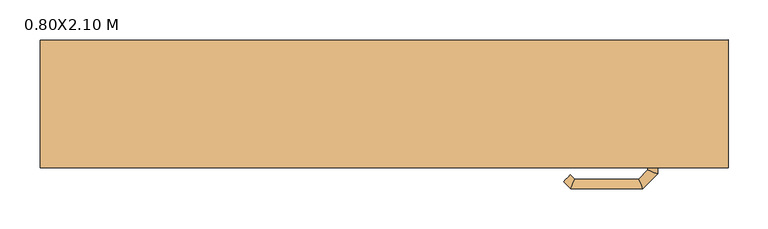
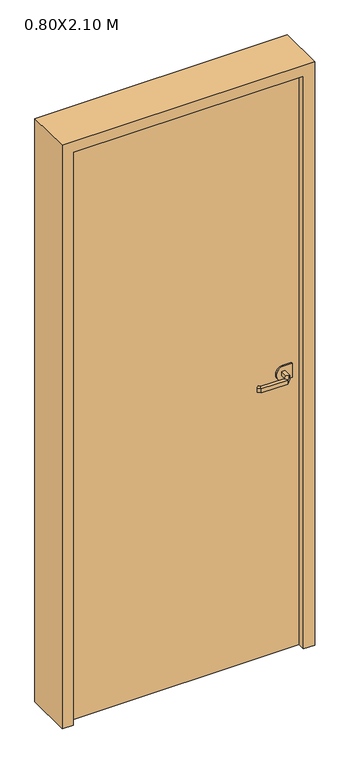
"""IFC4 building model written with IfcOpenShell, lengths in millimetres: door geometry, PUERTA DE  MADERA-CEDRO : 0.80X2.10 M."""

from ifc_helpers import new_model, si_unit, point, frame, frame_2d, origin, origin_with_axes, place, context, project, spatial, polyline, circle_curve, ellipse_curve, trimmed, segment, composite_curve, outline, extrude, faceted_brep, source, transform, mapped, element, save
from ifc_brep_helpers import plane_surface, cylinder_surface, advanced_brep


def door_0_80x2_10_m_f795b408(model_context):
    return source(origin(), model_context, "Body", "SolidModel", [
        extrude(outline(composite_curve([segment(polyline([(975.0, 365.9), (1025.0, 365.9), (1025.0, 335.9)]), True, "CONTINUOUS"), segment(trimmed(circle_curve(frame_2d((1000.0, 335.9)), 25.0), [point((1025.0, 335.9))], [point((975.0, 335.9))], False, "CARTESIAN"), True, "CONTINUOUS"), segment(polyline([(975.0, 335.9), (975.0, 365.9)]), True, "CONTINUOUS")], self_intersect=False)), frame((0.0, -16.5, 0.0), z_axis=(0.0, 1.0, 0.0), x_axis=(0.0, 0.0, 1.0)), (0.0, 0.0, 1.0), 5.0),
        advanced_brep(
        [(329.9, -11.5, 993.0), (341.9, -11.5, 993.0), (341.9, -11.5, 1007.0), (329.9, -11.5, 1007.0), (329.9, 10.9852045, 1007.0), (329.9, 10.9852045, 993.0), (341.9, 15.9557673, 1007.0), (341.9, 15.9557673, 993.0), (318.4147186, 22.4704859, 1007.0), (318.4147186, 22.4704859, 993.0), (323.3852814, 34.4704859, 1007.0), (323.3852814, 34.4704859, 993.0), (238.3394977, 22.4704859, 1007.0), (238.3394977, 22.4704859, 993.0), (233.368935, 34.4704859, 1007.0), (233.368935, 34.4704859, 993.0), (233.0257892, 17.1567774, 993.0), (233.0257892, 17.1567774, 1007.0), (224.5405078, 25.6420588, 1007.0), (224.5405078, 25.6420588, 993.0)],
        [
            (0, 1, circle_curve(frame((335.9, -11.5, 1013.0457722), z_axis=(0.0, -1.0, 0.0), x_axis=(1.0, 0.0, 0.0)), 20.9244589)),
            (1, 2),
            (2, 3, circle_curve(frame((335.9, -11.5, 986.9542278), z_axis=(0.0, -1.0, 0.0), x_axis=(1.0, 0.0, 0.0)), 20.9244589)),
            (3, 0),
            (3, 4),
            (4, 5),
            (5, 0),
            (2, 6),
            (6, 4, ellipse_curve(frame((335.9, 13.4704859, 986.9542278), z_axis=(0.38268343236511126, -0.9238795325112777, 0.0), x_axis=(-0.9238795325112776, -0.3826834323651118, 0.0)), 22.6484711, 20.9244589)),
            (1, 7),
            (7, 6),
            (5, 7, ellipse_curve(frame((335.9, 13.4704859, 1013.0457722), z_axis=(0.38268343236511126, -0.9238795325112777, 0.0), x_axis=(-0.9238795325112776, -0.3826834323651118, 0.0)), 22.6484711, 20.9244589)),
            (4, 8),
            (8, 9),
            (9, 5),
            (6, 10),
            (10, 8, ellipse_curve(frame((320.9, 28.4704859, 986.9542278), z_axis=(0.9238795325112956, -0.3826834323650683, 0.0), x_axis=(-0.38268343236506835, -0.9238795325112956, 0.0)), 22.6484711, 20.9244589)),
            (7, 11),
            (11, 10),
            (9, 11, ellipse_curve(frame((320.9, 28.4704859, 1013.0457722), z_axis=(0.9238795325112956, -0.3826834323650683, 0.0), x_axis=(-0.38268343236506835, -0.9238795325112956, 0.0)), 22.6484711, 20.9244589)),
            (8, 12),
            (12, 13),
            (13, 9),
            (10, 14),
            (14, 12, ellipse_curve(frame((235.8542163, 28.4704859, 986.9542278), z_axis=(0.9238795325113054, 0.3826834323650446, 0.0), x_axis=(0.3826834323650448, -0.9238795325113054, 0.0)), 22.6484711, 20.9244589)),
            (11, 15),
            (15, 14),
            (13, 15, ellipse_curve(frame((235.8542163, 28.4704859, 1013.0457722), z_axis=(0.9238795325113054, 0.3826834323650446, 0.0), x_axis=(0.3826834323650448, -0.9238795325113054, 0.0)), 22.6484711, 20.9244589)),
            (16, 17),
            (17, 18, circle_curve(frame((228.7831485, 21.3994181, 986.9542278), z_axis=(-0.707106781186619, -0.7071067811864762, 0.0), x_axis=(-0.7071067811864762, 0.707106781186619, 0.0)), 20.9244589)),
            (18, 19),
            (19, 16, circle_curve(frame((228.7831485, 21.3994181, 1013.0457722), z_axis=(-0.707106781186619, -0.7071067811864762, 0.0), x_axis=(-0.7071067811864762, 0.707106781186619, 0.0)), 20.9244589)),
            (12, 17),
            (16, 13),
            (14, 18),
            (15, 19),
        ],
        [
            plane_surface(frame((345.1195445, -11.5, 1000.0), z_axis=(0.0, -1.0, 0.0), x_axis=(0.0, 0.0, 1.0))),
            plane_surface(frame((329.9, -11.5, 993.0), z_axis=(-1.0, 0.0, 0.0), x_axis=(0.0, 1.0, 0.0))),
            cylinder_surface(frame((335.9, -11.5, 986.9542278), z_axis=(0.0, -1.0, 0.0), x_axis=(1.0, 0.0, 0.0)), 20.9244589),
            plane_surface(frame((341.9, -11.5, 1007.0), z_axis=(1.0, 0.0, 0.0), x_axis=(0.0, 1.0, 0.0))),
            cylinder_surface(frame((335.9, -11.5, 1013.0457722), z_axis=(0.0, -1.0, 0.0), x_axis=(1.0, 0.0, 0.0)), 20.9244589),
            plane_surface(frame((329.9, 10.9852045, 993.0), z_axis=(-0.7071067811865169, -0.7071067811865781, 0.0), x_axis=(-0.7071067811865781, 0.7071067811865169, 0.0))),
            cylinder_surface(frame((335.9, 13.4704859, 986.9542278), z_axis=(0.7071067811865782, -0.7071067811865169, 0.0), x_axis=(0.7071067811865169, 0.7071067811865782, 0.0)), 20.9244589),
            plane_surface(frame((341.9, 15.9557673, 1007.0), z_axis=(0.7071067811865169, 0.7071067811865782, 0.0), x_axis=(-0.7071067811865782, 0.7071067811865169, 0.0))),
            cylinder_surface(frame((335.9, 13.4704859, 1013.0457722), z_axis=(0.7071067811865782, -0.7071067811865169, 0.0), x_axis=(0.7071067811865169, 0.7071067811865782, 0.0)), 20.9244589),
            plane_surface(frame((318.4147186, 22.4704859, 993.0), z_axis=(0.0, -1.0, 0.0), x_axis=(-1.0, 0.0, 0.0))),
            cylinder_surface(frame((320.9, 28.4704859, 986.9542278), z_axis=(1.0, 0.0, 0.0), x_axis=(0.0, 1.0, 0.0)), 20.9244589),
            plane_surface(frame((323.3852814, 34.4704859, 1007.0), z_axis=(0.0, 1.0, 0.0), x_axis=(-1.0, 0.0, 0.0))),
            cylinder_surface(frame((320.9, 28.4704859, 1013.0457722), z_axis=(1.0, 0.0, 0.0), x_axis=(0.0, 1.0, 0.0)), 20.9244589),
            plane_surface(frame((228.7831485, 21.3994181, 990.7804555), z_axis=(-0.707106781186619, -0.7071067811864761, 0.0), x_axis=(-0.7071067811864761, 0.707106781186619, 0.0))),
            plane_surface(frame((238.3394977, 22.4704859, 993.0), z_axis=(0.7071067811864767, -0.7071067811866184, 0.0), x_axis=(-0.7071067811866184, -0.7071067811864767, 0.0))),
            cylinder_surface(frame((235.8542163, 28.4704859, 986.9542278), z_axis=(0.707106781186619, 0.7071067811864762, 0.0), x_axis=(-0.7071067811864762, 0.707106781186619, 0.0)), 20.9244589),
            plane_surface(frame((233.368935, 34.4704859, 1007.0), z_axis=(-0.7071067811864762, 0.7071067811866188, 0.0), x_axis=(-0.7071067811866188, -0.7071067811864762, 0.0))),
            cylinder_surface(frame((235.8542163, 28.4704859, 1013.0457722), z_axis=(0.707106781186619, 0.7071067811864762, 0.0), x_axis=(-0.7071067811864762, 0.707106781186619, 0.0)), 20.9244589),
        ],
        [
            (0, [[1, 2, 3, 4]]),
            (1, [[5, 6, 7, -4]]),
            (2, [[8, 9, -5, -3]]),
            (3, [[10, 11, -8, -2]]),
            (4, [[-7, 12, -10, -1]]),
            (5, [[13, 14, 15, -6]]),
            (6, [[16, 17, -13, -9]]),
            (7, [[18, 19, -16, -11]]),
            (8, [[-15, 20, -18, -12]]),
            (9, [[21, 22, 23, -14]]),
            (10, [[24, 25, -21, -17]]),
            (11, [[26, 27, -24, -19]]),
            (12, [[-23, 28, -26, -20]]),
            (13, [[29, 30, 31, 32]]),
            (14, [[33, -29, 34, -22]]),
            (15, [[35, -30, -33, -25]]),
            (16, [[36, -31, -35, -27]]),
            (17, [[-34, -32, -36, -28]]),
        ],
    ),
        advanced_brep(
        [(341.9, -59.6, 1007.0), (341.9, -59.6, 993.0), (329.9, -59.6, 993.0), (329.9, -59.6, 1007.0), (329.9, -82.280388, 1007.0), (341.9, -87.2509507, 1007.0), (329.9, -82.280388, 993.0), (341.9, -87.2509507, 993.0), (318.5522273, -93.6281607, 1007.0), (323.52279, -105.6281607, 1007.0), (318.5522273, -93.6281607, 993.0), (323.52279, -105.6281607, 993.0), (238.3666408, -93.6281607, 1007.0), (233.396078, -105.6281607, 1007.0), (238.3666408, -93.6281607, 993.0), (233.396078, -105.6281607, 993.0), (224.5676509, -96.7997336, 1007.0), (233.0529323, -88.3144522, 1007.0), (233.0529323, -88.3144522, 993.0), (224.5676509, -96.7997336, 993.0)],
        [
            (0, 1),
            (1, 2, circle_curve(frame((335.9, -59.6, 1013.0457722), z_axis=(0.0, 1.0, 0.0), x_axis=(-1.0, 0.0, 0.0)), 20.9244589)),
            (2, 3),
            (3, 0, circle_curve(frame((335.9, -59.6, 986.9542278), z_axis=(0.0, 1.0, 0.0), x_axis=(-1.0, 0.0, 0.0)), 20.9244589)),
            (3, 4),
            (4, 5, ellipse_curve(frame((335.9, -84.7656693, 986.9542278), z_axis=(0.3826834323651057, 0.9238795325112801, 0.0), x_axis=(-0.9238795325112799, 0.38268343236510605, 0.0)), 22.6484711, 20.9244589)),
            (5, 0),
            (2, 6),
            (6, 4),
            (1, 7),
            (7, 6, ellipse_curve(frame((335.9, -84.7656693, 1013.0457722), z_axis=(0.3826834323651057, 0.9238795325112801, 0.0), x_axis=(-0.9238795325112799, 0.38268343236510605, 0.0)), 22.6484711, 20.9244589)),
            (5, 7),
            (4, 8),
            (8, 9, ellipse_curve(frame((321.0375086, -99.6281607, 986.9542278), z_axis=(0.9238795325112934, 0.3826834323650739, 0.0), x_axis=(-0.3826834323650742, 0.9238795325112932, 0.0)), 22.6484711, 20.9244589)),
            (9, 5),
            (6, 10),
            (10, 8),
            (7, 11),
            (11, 10, ellipse_curve(frame((321.0375086, -99.6281607, 1013.0457722), z_axis=(0.9238795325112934, 0.3826834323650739, 0.0), x_axis=(-0.3826834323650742, 0.9238795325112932, 0.0)), 22.6484711, 20.9244589)),
            (9, 11),
            (8, 12),
            (12, 13, ellipse_curve(frame((235.8813594, -99.6281607, 986.9542278), z_axis=(0.9238795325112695, -0.3826834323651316, 0.0), x_axis=(0.38268343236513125, 0.9238795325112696, 0.0)), 22.6484711, 20.9244589)),
            (13, 9),
            (10, 14),
            (14, 12),
            (11, 15),
            (15, 14, ellipse_curve(frame((235.8813594, -99.6281607, 1013.0457722), z_axis=(0.9238795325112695, -0.3826834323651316, 0.0), x_axis=(0.38268343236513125, 0.9238795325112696, 0.0)), 22.6484711, 20.9244589)),
            (13, 15),
            (16, 17, circle_curve(frame((228.8102916, -92.5570929, 986.9542278), z_axis=(-0.7071067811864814, 0.7071067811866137, 0.0), x_axis=(0.7071067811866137, 0.7071067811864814, 0.0)), 20.9244589)),
            (17, 18),
            (18, 19, circle_curve(frame((228.8102916, -92.5570929, 1013.0457722), z_axis=(-0.7071067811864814, 0.7071067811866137, 0.0), x_axis=(0.7071067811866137, 0.7071067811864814, 0.0)), 20.9244589)),
            (19, 16),
            (12, 17),
            (16, 13),
            (14, 18),
            (15, 19),
        ],
        [
            plane_surface(frame((345.1195445, -59.6, 1000.0), z_axis=(0.0, 1.0, 0.0), x_axis=(0.0, 0.0, -1.0))),
            cylinder_surface(frame((335.9, -59.6, 986.9542278), z_axis=(0.0, 1.0, 0.0), x_axis=(-1.0, 0.0, 0.0)), 20.9244589),
            plane_surface(frame((329.9, -59.6, 1007.0), z_axis=(-1.0, 0.0, 0.0), x_axis=(0.0, -1.0, 0.0))),
            cylinder_surface(frame((335.9, -59.6, 1013.0457722), z_axis=(0.0, 1.0, 0.0), x_axis=(-1.0, 0.0, 0.0)), 20.9244589),
            plane_surface(frame((341.9, -59.6, 993.0), z_axis=(1.0, 0.0, 0.0), x_axis=(0.0, -1.0, 0.0))),
            cylinder_surface(frame((335.9, -84.7656693, 986.9542278), z_axis=(0.7071067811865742, 0.7071067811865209, 0.0), x_axis=(-0.7071067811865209, 0.7071067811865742, 0.0)), 20.9244589),
            plane_surface(frame((329.9, -82.280388, 1007.0), z_axis=(-0.7071067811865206, 0.7071067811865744, 0.0), x_axis=(-0.7071067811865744, -0.7071067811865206, 0.0))),
            cylinder_surface(frame((335.9, -84.7656693, 1013.0457722), z_axis=(0.7071067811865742, 0.7071067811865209, 0.0), x_axis=(-0.7071067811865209, 0.7071067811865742, 0.0)), 20.9244589),
            plane_surface(frame((341.9, -87.2509507, 993.0), z_axis=(0.707106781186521, -0.7071067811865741, 0.0), x_axis=(-0.7071067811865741, -0.707106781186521, 0.0))),
            cylinder_surface(frame((321.0375086, -99.6281607, 986.9542278), z_axis=(1.0, 0.0, 0.0), x_axis=(0.0, 1.0, 0.0)), 20.9244589),
            plane_surface(frame((318.5522273, -93.6281607, 1007.0), z_axis=(0.0, 1.0, 0.0), x_axis=(-1.0, 0.0, 0.0))),
            cylinder_surface(frame((321.0375086, -99.6281607, 1013.0457722), z_axis=(1.0, 0.0, 0.0), x_axis=(0.0, 1.0, 0.0)), 20.9244589),
            plane_surface(frame((323.52279, -105.6281607, 993.0), z_axis=(0.0, -1.0, 0.0), x_axis=(-1.0, 0.0, 0.0))),
            plane_surface(frame((228.8102916, -92.5570929, 1009.2195445), z_axis=(-0.7071067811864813, 0.7071067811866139, 0.0), x_axis=(-0.7071067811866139, -0.7071067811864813, 0.0))),
            cylinder_surface(frame((235.8813594, -99.6281607, 986.9542278), z_axis=(0.7071067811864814, -0.7071067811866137, 0.0), x_axis=(0.7071067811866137, 0.7071067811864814, 0.0)), 20.9244589),
            plane_surface(frame((238.3666408, -93.6281607, 1007.0), z_axis=(0.7071067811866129, 0.7071067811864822, 0.0), x_axis=(-0.7071067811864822, 0.7071067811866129, 0.0))),
            cylinder_surface(frame((235.8813594, -99.6281607, 1013.0457722), z_axis=(0.7071067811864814, -0.7071067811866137, 0.0), x_axis=(0.7071067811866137, 0.7071067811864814, 0.0)), 20.9244589),
            plane_surface(frame((233.396078, -105.6281607, 993.0), z_axis=(-0.7071067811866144, -0.7071067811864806, 0.0), x_axis=(-0.7071067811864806, 0.7071067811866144, 0.0))),
        ],
        [
            (0, [[1, 2, 3, 4]]),
            (1, [[5, 6, 7, -4]]),
            (2, [[8, 9, -5, -3]]),
            (3, [[10, 11, -8, -2]]),
            (4, [[-7, 12, -10, -1]]),
            (5, [[13, 14, 15, -6]]),
            (6, [[16, 17, -13, -9]]),
            (7, [[18, 19, -16, -11]]),
            (8, [[-15, 20, -18, -12]]),
            (9, [[21, 22, 23, -14]]),
            (10, [[24, 25, -21, -17]]),
            (11, [[26, 27, -24, -19]]),
            (12, [[-23, 28, -26, -20]]),
            (13, [[29, 30, 31, 32]]),
            (14, [[33, -29, 34, -22]]),
            (15, [[35, -30, -33, -25]]),
            (16, [[36, -31, -35, -27]]),
            (17, [[-34, -32, -36, -28]]),
        ],
    ),
        extrude(outline(composite_curve([segment(polyline([(975.0, 365.9), (1025.0, 365.9), (1025.0, 335.9)]), True, "CONTINUOUS"), segment(trimmed(circle_curve(frame_2d((1000.0, 335.9)), 25.0), [point((1025.0, 335.9))], [point((975.0, 335.9))], False, "CARTESIAN"), True, "CONTINUOUS"), segment(polyline([(975.0, 335.9), (975.0, 365.9)]), True, "CONTINUOUS")], self_intersect=False)), frame((0.0, -59.6, 0.0), z_axis=(0.0, 1.0, 0.0), x_axis=(0.0, 0.0, 1.0)), (0.0, 0.0, 1.0), 5.0),
        faceted_brep([(-430.0, 80.0, 0.0), (-404.6, 80.0, 0.0), (-404.6, -54.6, 0.0), (-391.9, -54.6, 0.0), (-391.9, -80.0, 0.0), (-430.0, -80.0, 0.0), (-430.0, -80.0, 2100.0), (-430.0, 80.0, 2100.0), (-391.9, -80.0, 2061.9), (391.9, -80.0, 2061.9), (391.9, -80.0, 0.0), (430.0, -80.0, 0.0), (430.0, -80.0, 2100.0), (-391.9, -54.6, 2061.9), (-404.6, -54.6, 2074.6), (404.6, -54.6, 2074.6), (404.6, -54.6, 0.0), (391.9, -54.6, 0.0), (391.9, -54.6, 2061.9), (-404.6, 80.0, 2074.6), (430.0, 80.0, 2100.0), (430.0, 80.0, 0.0), (404.6, 80.0, 0.0), (404.6, 80.0, 2074.6)], [[[0, 1, 2, 3, 4, 5]], [[5, 6, 7, 0]], [[4, 8, 9, 10, 11, 12, 6, 5]], [[3, 13, 8, 4]], [[2, 14, 15, 16, 17, 18, 13, 3]], [[1, 19, 14, 2]], [[0, 7, 20, 21, 22, 23, 19, 1]], [[12, 11, 21, 20]], [[21, 11, 10, 17, 16, 22]], [[18, 17, 10, 9]], [[23, 22, 16, 15]], [[6, 12, 20, 7]], [[13, 18, 9, 8]], [[19, 23, 15, 14]]]),
        extrude(outline(polyline([(-404.6, -54.6), (-404.6, -16.5), (404.6, -16.5), (404.6, -54.6), (-404.6, -54.6)])), origin_with_axes(), (0.0, 0.0, 1.0), 2074.6),
    ])


if __name__ == "__main__":
    model = new_model("IFC4")
    model_context = context("Model", 3, world=origin())
    ifc_project = project(units=[si_unit("LENGTHUNIT", "METRE", prefix="MILLI")], contexts=[model_context])
    site = spatial("IfcSite", under=ifc_project)
    building = spatial("IfcBuilding", under=site)
    placement = place(None, origin())
    door_0_80x2_10_m_shape = door_0_80x2_10_m_f795b408(model_context)
    element("IfcDoor", 1, ObjectType="PUERTA DE  MADERA-CEDRO : 0.80X2.10 M", at=placement, inside=building, context=model_context, shape_type="MappedRepresentation", body=[
        mapped(door_0_80x2_10_m_shape, transform((0.0, 0.0, 0.0), x_axis=(1.0, 0.0, 0.0), y_axis=(0.0, 1.0, 0.0), z_axis=(0.0, 0.0, 1.0))),
    ])
    save(model, "model.ifc")
